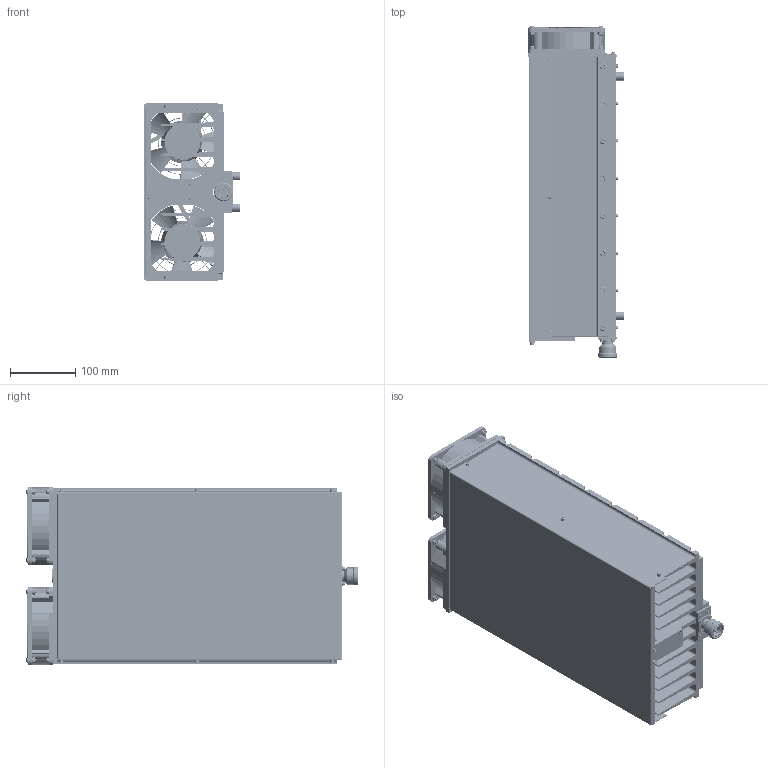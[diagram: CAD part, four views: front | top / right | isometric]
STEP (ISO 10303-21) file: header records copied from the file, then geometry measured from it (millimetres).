
FILE_DESCRIPTION(/* description */ ('Unknown'),/* implementation_level */ '2;1');
FILE_NAME(/* name */ '1500-wt-fe',/* time_stamp */ '2016-06-03T08:22:08-04:00',/* author */ ('Unknown'),/* organization */ ('Unknown'),/* preprocessor_version */ 'ST-DEVELOPER v16.7',/* originating_system */ 'DEX',/* authorisation */ $);
FILE_SCHEMA (('CONFIG_CONTROL_DESIGN'));
Products named in the file (1): 1500-wt-fe
Bounding box: 148.2 x 507.02 x 271.5 mm (x, y, z)
Volume: 4712913.1 mm3; surface area: 1688998.6 mm2
Topology: 108 solids, 163 shells, 3659 faces, 8465 edges, 5413 vertices
Faces by surface type: plane 2006, cylinder 857, cone 597, torus 167, bspline 24, sphere 8
Full cylindrical faces by diameter (mm): 2 x1, 2.156 x83, 2.413 x1, 2.647 x20, 2.845 x32, 3.048 x1, 3.175 x36, 3.306 x32, 3.307 x8, 3.505 x14, 3.611 x2, 3.658 x2, 3.81 x8, 3.962 x2, 4.093 x8, 4.137 x8, 4.166 x56, 4.191 x2, 4.216 x4, 4.3 x16, 4.572 x1, 4.648 x32, 4.75 x16, 4.775 x4, 4.976 x24, 5.27 x2, 5.7 x1, 5.74 x14, 5.944 x10, 6.35 x22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
Entity records: 135697 total; most frequent: CARTESIAN_POINT 41298, DIRECTION 16616, ORIENTED_EDGE 14394, EDGE_CURVE 7197, AXIS2_PLACEMENT_3D 6449, FACE_BOUND 5196, VERTEX_POINT 5139, EDGE_LOOP 5116
